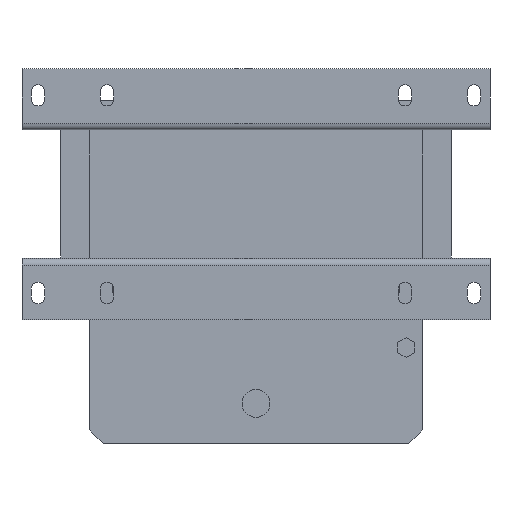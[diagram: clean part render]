
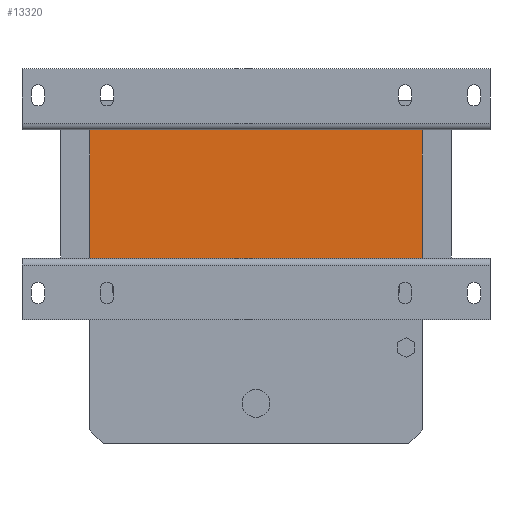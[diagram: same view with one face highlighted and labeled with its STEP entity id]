
A CAD part, front view. The second image highlights one B-rep face of the part: STEP entity #13320.
In plain terms, the highlighted planar face has unit normal (0, -1, 0).
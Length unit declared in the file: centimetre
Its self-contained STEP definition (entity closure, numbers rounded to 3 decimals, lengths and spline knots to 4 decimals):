
#822 = VERTEX_POINT ( 'NONE', #13728 ) ;
#1120 = CARTESIAN_POINT ( 'NONE',  ( 12.5, 0.95, 4.835 ) ) ;
#2245 = DIRECTION ( 'NONE',  ( 0., 0., -1. ) ) ;
#4323 = ORIENTED_EDGE ( 'NONE', *, *, #7214, .F. ) ;
#4731 = VECTOR ( 'NONE', #2245, 100. ) ;
#6108 = CARTESIAN_POINT ( 'NONE',  ( -12.5, 0.95, -4.835 ) ) ;
#6850 = EDGE_CURVE ( 'NONE', #7400, #29106, #28577, .T. ) ;
#6987 = VERTEX_POINT ( 'NONE', #27785 ) ;
#7214 = EDGE_CURVE ( 'NONE', #29106, #6987, #8502, .T. ) ;
#7400 = VERTEX_POINT ( 'NONE', #20010 ) ;
#8502 = LINE ( 'NONE', #17745, #4731 ) ;
#8557 = LINE ( 'NONE', #29246, #21674 ) ;
#10498 = CARTESIAN_POINT ( 'NONE',  ( -12.5, 0.95, 4.835 ) ) ;
#13320 = ADVANCED_FACE ( 'NONE', ( #21832 ), #26573, .F. ) ;
#13728 = CARTESIAN_POINT ( 'NONE',  ( -12.5, 0.95, -4.835 ) ) ;
#14190 = EDGE_CURVE ( 'NONE', #822, #6987, #19661, .T. ) ;
#14632 = EDGE_CURVE ( 'NONE', #7400, #822, #8557, .T. ) ;
#15127 = DIRECTION ( 'NONE',  ( 0., 0., 1. ) ) ;
#15198 = DIRECTION ( 'NONE',  ( 1., 0., 0. ) ) ;
#17745 = CARTESIAN_POINT ( 'NONE',  ( 12.5, 0.95, 4.835 ) ) ;
#17879 = ORIENTED_EDGE ( 'NONE', *, *, #6850, .F. ) ;
#17914 = AXIS2_PLACEMENT_3D ( 'NONE', #10498, #28652, #15127 ) ;
#19661 = LINE ( 'NONE', #6108, #27456 ) ;
#19736 = ORIENTED_EDGE ( 'NONE', *, *, #14632, .T. ) ;
#19887 = DIRECTION ( 'NONE',  ( 0., 0., -1. ) ) ;
#20010 = CARTESIAN_POINT ( 'NONE',  ( -12.5, 0.95, 4.835 ) ) ;
#20352 = ORIENTED_EDGE ( 'NONE', *, *, #14190, .T. ) ;
#21004 = EDGE_LOOP ( 'NONE', ( #20352, #4323, #17879, #19736 ) ) ;
#21674 = VECTOR ( 'NONE', #19887, 100. ) ;
#21760 = DIRECTION ( 'NONE',  ( 1., 0., 0. ) ) ;
#21832 = FACE_OUTER_BOUND ( 'NONE', #21004, .T. ) ;
#26573 = PLANE ( 'NONE',  #17914 ) ;
#27456 = VECTOR ( 'NONE', #15198, 100. ) ;
#27785 = CARTESIAN_POINT ( 'NONE',  ( 12.5, 0.95, -4.835 ) ) ;
#28028 = VECTOR ( 'NONE', #21760, 100. ) ;
#28577 = LINE ( 'NONE', #29170, #28028 ) ;
#28652 = DIRECTION ( 'NONE',  ( 0., 1., 0. ) ) ;
#29106 = VERTEX_POINT ( 'NONE', #1120 ) ;
#29170 = CARTESIAN_POINT ( 'NONE',  ( -12.5, 0.95, 4.835 ) ) ;
#29246 = CARTESIAN_POINT ( 'NONE',  ( -12.5, 0.95, 4.835 ) ) ;
